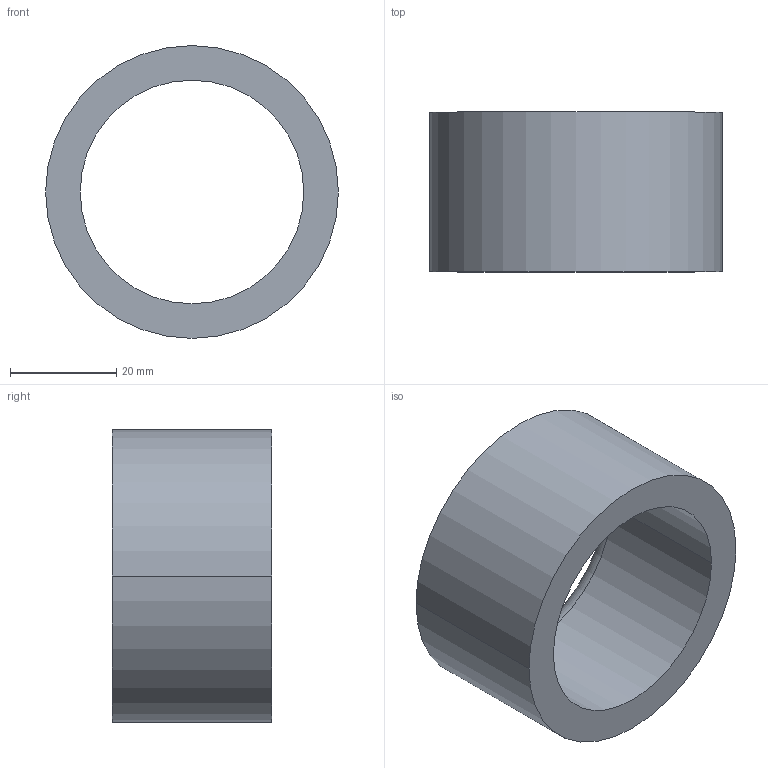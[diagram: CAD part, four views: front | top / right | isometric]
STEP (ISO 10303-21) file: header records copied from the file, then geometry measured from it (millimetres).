
FILE_DESCRIPTION (( 'STEP AP203' ), '1' );
FILE_NAME ('30800.WPP55L42.0.step', '2019-01-23T22:55:57', ( '' ), ( '' ), 'SwSTEP 2.0', 'SolidWorks 2017', '' );
FILE_SCHEMA (( 'CONFIG_CONTROL_DESIGN' ));
Length unit declared in the file: millimetre
Products named in the file (1): 30800.WPP55L42.0
Bounding box: 55 x 30 x 55 mm (x, y, z)
Volume: 29351.8 mm3; surface area: 10930 mm2
Topology: 1 solids, 1 shells, 8 faces, 16 edges, 10 vertices
Faces by surface type: cylinder 4, torus 2, plane 2
Entity records: 297 total; most frequent: DIRECTION 46, CARTESIAN_POINT 35, ORIENTED_EDGE 32, AXIS2_PLACEMENT_3D 21, EDGE_CURVE 16, CIRCLE 12, VERTEX_POINT 10, EDGE_LOOP 10
